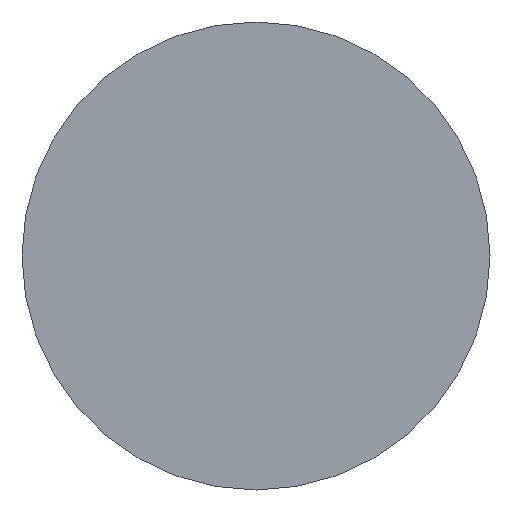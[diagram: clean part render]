
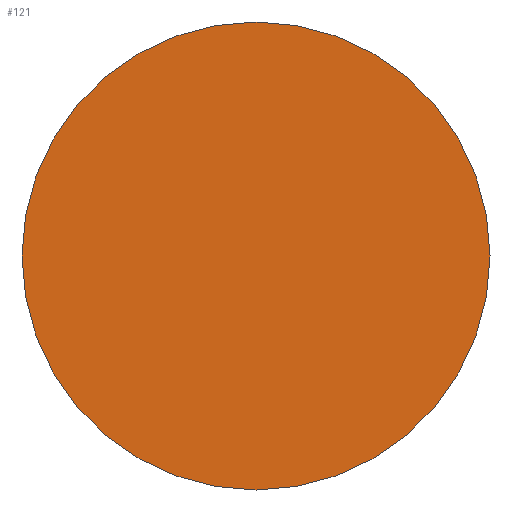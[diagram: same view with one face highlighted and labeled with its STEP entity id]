
A CAD part, front view. The second image highlights one B-rep face of the part: STEP entity #121.
In plain terms, the highlighted planar face has unit normal (0, -1, 0).
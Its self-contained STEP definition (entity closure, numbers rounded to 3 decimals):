
#121=ADVANCED_FACE('',(#1001),#1003,.F.);
#1001=FACE_BOUND('',#1002,.T.);
#1002=EDGE_LOOP('',(#2214));
#1003=PLANE('',#1004);
#1004=AXIS2_PLACEMENT_3D('',#1005,#1006,#1007);
#1005=CARTESIAN_POINT('',(0.,0.,0.));
#1006=DIRECTION('',(0.,1.,0.));
#1007=DIRECTION('',(-1.,0.,0.));
#2214=ORIENTED_EDGE('',*,*,#2628,.F.);
#2628=EDGE_CURVE('',#2837,#2837,#2838,.T.);
#2837=VERTEX_POINT('',#3184);
#2838=CIRCLE('',#3185,95.);
#3184=CARTESIAN_POINT('',(-95.,0.,0.));
#3185=AXIS2_PLACEMENT_3D('',#3186,#3187,#3188);
#3186=CARTESIAN_POINT('',(0.,0.,0.));
#3187=DIRECTION('',(0.,1.,0.));
#3188=DIRECTION('',(-1.,0.,0.));
